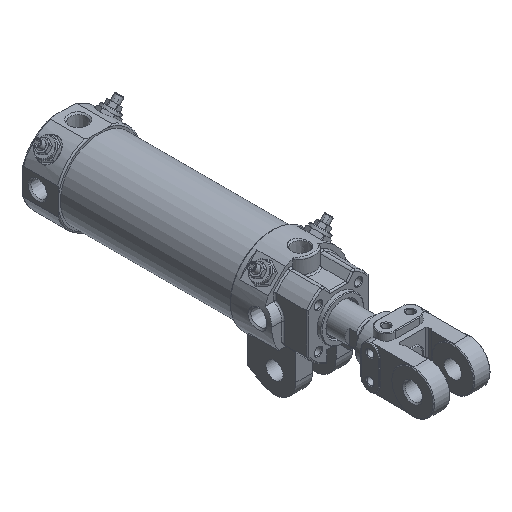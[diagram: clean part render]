
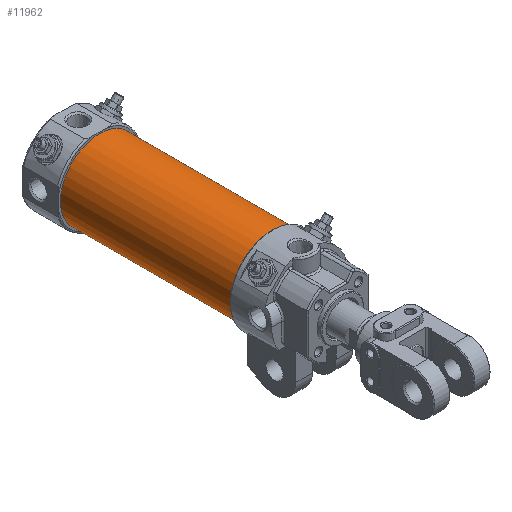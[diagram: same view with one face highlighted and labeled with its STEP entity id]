
A CAD part, isometric view. The second image highlights one B-rep face of the part: STEP entity #11962.
In plain terms, the highlighted cylindrical face has radius 27.5 mm (diameter 55 mm), a full revolution.
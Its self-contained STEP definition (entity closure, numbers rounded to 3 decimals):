
#4051=CARTESIAN_POINT('',(27.5,171.0,0.));
#4052=VERTEX_POINT('',#4051);
#4053=CARTESIAN_POINT('',(0.,171.0,0.));
#4054=DIRECTION('',(0.0,-1.0,0.0));
#4055=DIRECTION('',(-1.0,0.0,0.0));
#4056=AXIS2_PLACEMENT_3D('',#4053,#4054,#4055);
#4057=CIRCLE('',#4056,27.5);
#4058=EDGE_CURVE('',#4052,#4052,#4057,.T.);
#11939=CARTESIAN_POINT('',(27.5,50.,0.));
#11940=VERTEX_POINT('',#11939);
#11941=CARTESIAN_POINT('',(0.,50.,0.));
#11942=DIRECTION('',(0.0,-1.0,0.0));
#11943=DIRECTION('',(-1.0,0.0,0.0));
#11944=AXIS2_PLACEMENT_3D('',#11941,#11942,#11943);
#11945=CIRCLE('',#11944,27.5);
#11946=EDGE_CURVE('',#11940,#11940,#11945,.T.);
#11951=CARTESIAN_POINT('',(0.,50.,0.));
#11952=DIRECTION('',(0.0,1.0,0.));
#11953=DIRECTION('',(-1.0,0.0,0.0));
#11954=AXIS2_PLACEMENT_3D('',#11951,#11952,#11953);
#11955=CYLINDRICAL_SURFACE('',#11954,27.5);
#11956=ORIENTED_EDGE('',*,*,#4058,.T.);
#11957=EDGE_LOOP('',(#11956));
#11958=FACE_OUTER_BOUND('',#11957,.T.);
#11959=ORIENTED_EDGE('',*,*,#11946,.F.);
#11960=EDGE_LOOP('',(#11959));
#11961=FACE_BOUND('',#11960,.T.);
#11962=ADVANCED_FACE('',(#11958,#11961),#11955,.T.);
